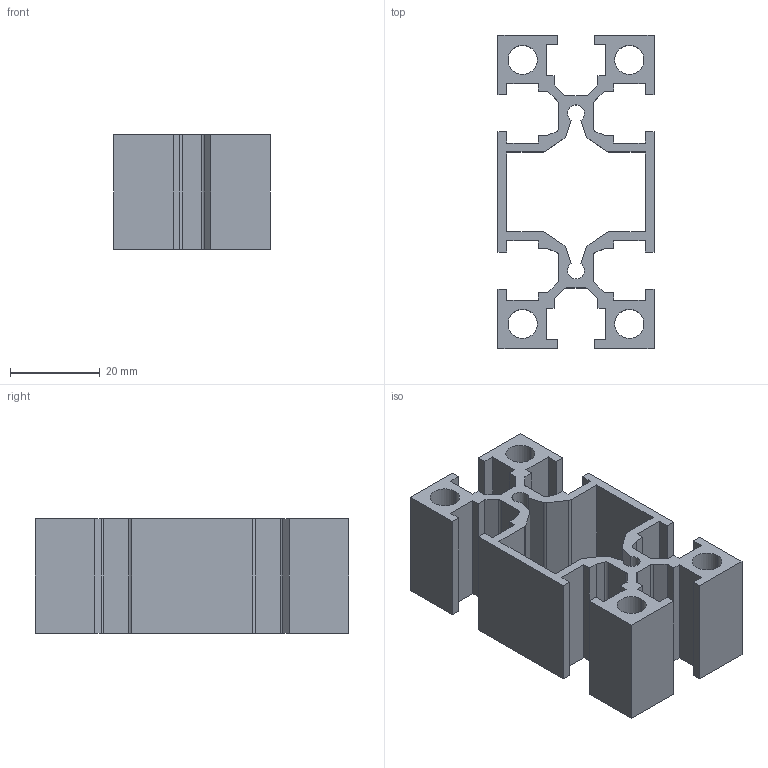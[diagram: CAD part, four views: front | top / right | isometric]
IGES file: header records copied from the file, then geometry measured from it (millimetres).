
Global section: file name: C:\Documents and Settings\Administrator\Desktop\Transfer Temp\hirata.igs; native system: AutoDesk Inventor R2.0 ; preprocessor: AutoDesk Inventor Iges Exporter R2.0; author: No Author specified; organization: No Organization specified; date: 20020121.155423; units: millimetre
Bounding box: 34.75 x 69.76 x 25.4 mm (x, y, z)
Surface area: 17339.7 mm2 (no closed solid volume)
Topology: 0 solids, 0 shells, 136 faces, 804 edges, 804 vertices
Faces by surface type: bspline 104, revolution 32
